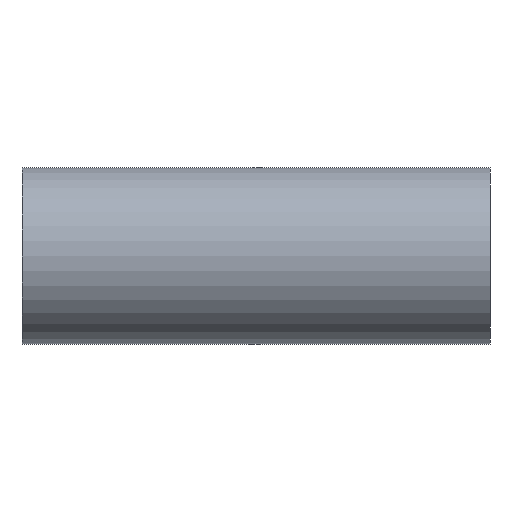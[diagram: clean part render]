
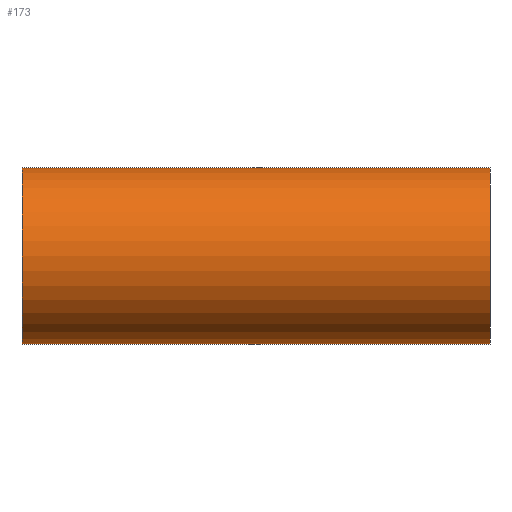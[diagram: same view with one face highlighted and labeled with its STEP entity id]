
A CAD part, front view. The second image highlights one B-rep face of the part: STEP entity #173.
In plain terms, the highlighted cylindrical face has radius 15.875 mm (diameter 31.75 mm), a partial arc.
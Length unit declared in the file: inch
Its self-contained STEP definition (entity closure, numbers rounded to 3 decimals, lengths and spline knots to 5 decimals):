
#13 = VECTOR ( 'NONE', #205, 39.37008 ) ;
#16 = LINE ( 'NONE', #445, #120 ) ;
#29 = CARTESIAN_POINT ( 'NONE',  ( 1.656, 0., 0.625 ) ) ;
#40 = CARTESIAN_POINT ( 'NONE',  ( 1.656, 0., -0.625 ) ) ;
#44 = CARTESIAN_POINT ( 'NONE',  ( 1.656, 0., 0.625 ) ) ;
#49 = EDGE_CURVE ( 'NONE', #95, #56, #16, .T. ) ;
#55 = CYLINDRICAL_SURFACE ( 'NONE', #413, 0.625 ) ;
#56 = VERTEX_POINT ( 'NONE', #393 ) ;
#62 = ORIENTED_EDGE ( 'NONE', *, *, #81, .F. ) ;
#80 = VECTOR ( 'NONE', #196, 39.37008 ) ;
#81 = EDGE_CURVE ( 'NONE', #283, #95, #111, .T. ) ;
#82 = CARTESIAN_POINT ( 'NONE',  ( 0., 0., 0.625 ) ) ;
#95 = VERTEX_POINT ( 'NONE', #40 ) ;
#108 = AXIS2_PLACEMENT_3D ( 'NONE', #172, #332, #334 ) ;
#109 = ORIENTED_EDGE ( 'NONE', *, *, #233, .T. ) ;
#111 = CIRCLE ( 'NONE', #108, 0.625 ) ;
#120 = VECTOR ( 'NONE', #341, 39.37008 ) ;
#124 = CARTESIAN_POINT ( 'NONE',  ( 1.656, 0., 0.625 ) ) ;
#145 = CIRCLE ( 'NONE', #372, 0.625 ) ;
#147 = CARTESIAN_POINT ( 'NONE',  ( -1.656, 0., 0. ) ) ;
#161 = CARTESIAN_POINT ( 'NONE',  ( 1.656, 0., -0.625 ) ) ;
#170 = EDGE_CURVE ( 'NONE', #56, #208, #180, .T. ) ;
#172 = CARTESIAN_POINT ( 'NONE',  ( 1.656, 0., 0. ) ) ;
#173 = ADVANCED_FACE ( 'NONE', ( #251 ), #55, .T. ) ;
#180 = LINE ( 'NONE', #161, #446 ) ;
#182 = ORIENTED_EDGE ( 'NONE', *, *, #440, .T. ) ;
#193 = VERTEX_POINT ( 'NONE', #82 ) ;
#196 = DIRECTION ( 'NONE',  ( -1., 0., 0. ) ) ;
#205 = DIRECTION ( 'NONE',  ( -1., 0., 0. ) ) ;
#208 = VERTEX_POINT ( 'NONE', #447 ) ;
#215 = DIRECTION ( 'NONE',  ( -1., 0., 0. ) ) ;
#233 = EDGE_CURVE ( 'NONE', #283, #193, #369, .T. ) ;
#239 = DIRECTION ( 'NONE',  ( -1., 0., 0. ) ) ;
#251 = FACE_OUTER_BOUND ( 'NONE', #365, .T. ) ;
#265 = DIRECTION ( 'NONE',  ( 1., 0., 0. ) ) ;
#283 = VERTEX_POINT ( 'NONE', #29 ) ;
#288 = VERTEX_POINT ( 'NONE', #483 ) ;
#310 = ORIENTED_EDGE ( 'NONE', *, *, #49, .F. ) ;
#321 = LINE ( 'NONE', #44, #13 ) ;
#332 = DIRECTION ( 'NONE',  ( 1., 0., 0. ) ) ;
#334 = DIRECTION ( 'NONE',  ( 0., 0., -1. ) ) ;
#338 = ORIENTED_EDGE ( 'NONE', *, *, #170, .F. ) ;
#341 = DIRECTION ( 'NONE',  ( -1., 0., 0. ) ) ;
#349 = ORIENTED_EDGE ( 'NONE', *, *, #395, .T. ) ;
#365 = EDGE_LOOP ( 'NONE', ( #310, #62, #109, #182, #349, #338 ) ) ;
#369 = LINE ( 'NONE', #124, #80 ) ;
#372 = AXIS2_PLACEMENT_3D ( 'NONE', #147, #265, #454 ) ;
#393 = CARTESIAN_POINT ( 'NONE',  ( 0., 0., -0.625 ) ) ;
#395 = EDGE_CURVE ( 'NONE', #288, #208, #145, .T. ) ;
#413 = AXIS2_PLACEMENT_3D ( 'NONE', #486, #215, #442 ) ;
#440 = EDGE_CURVE ( 'NONE', #193, #288, #321, .T. ) ;
#442 = DIRECTION ( 'NONE',  ( 0., 0., 1. ) ) ;
#445 = CARTESIAN_POINT ( 'NONE',  ( 1.656, 0., -0.625 ) ) ;
#446 = VECTOR ( 'NONE', #239, 39.37008 ) ;
#447 = CARTESIAN_POINT ( 'NONE',  ( -1.656, 0., -0.625 ) ) ;
#454 = DIRECTION ( 'NONE',  ( 0., 0., -1. ) ) ;
#483 = CARTESIAN_POINT ( 'NONE',  ( -1.656, 0., 0.625 ) ) ;
#486 = CARTESIAN_POINT ( 'NONE',  ( 1.656, 0., 0. ) ) ;
